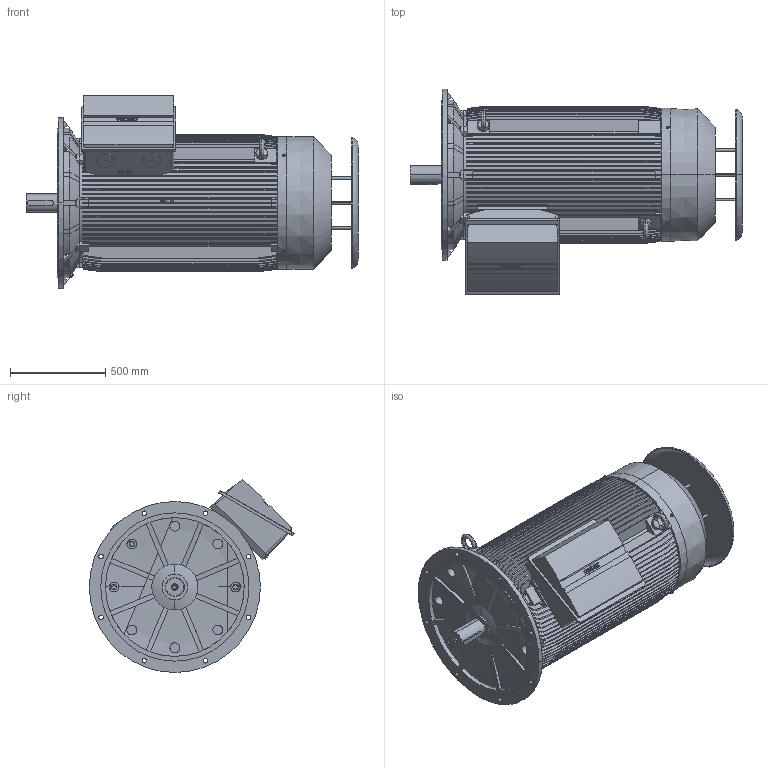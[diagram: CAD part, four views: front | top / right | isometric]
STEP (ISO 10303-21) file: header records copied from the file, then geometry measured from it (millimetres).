
FILE_DESCRIPTION (( 'STEP AP214' ), '1' );
FILE_NAME ('7RN355S08E31 IM3011+Rf.STEP', '2021-07-13T13:57:07', ( '' ), ( '' ), 'SwSTEP 2.0', 'SolidWorks 2018', '' );
FILE_SCHEMA (( 'AUTOMOTIVE_DESIGN' ));
Length unit declared in the file: millimetre
Products named in the file (1): 7RN355S08E31 IM3011+Rf
Bounding box: 1747 x 1080.43 x 1015.69 mm (x, y, z)
Volume: 544378403.2 mm3; surface area: 13595540.1 mm2
Topology: 7 solids, 10 shells, 1704 faces, 4774 edges, 3128 vertices
Faces by surface type: plane 799, cylinder 439, torus 360, cone 58, bspline 48
Entity records: 90293 total; most frequent: CARTESIAN_POINT 45202, ORIENTED_EDGE 9488, DIRECTION 7811, EDGE_CURVE 4744, VERTEX_POINT 3117, AXIS2_PLACEMENT_3D 2748, VECTOR 2315, LINE 2315
